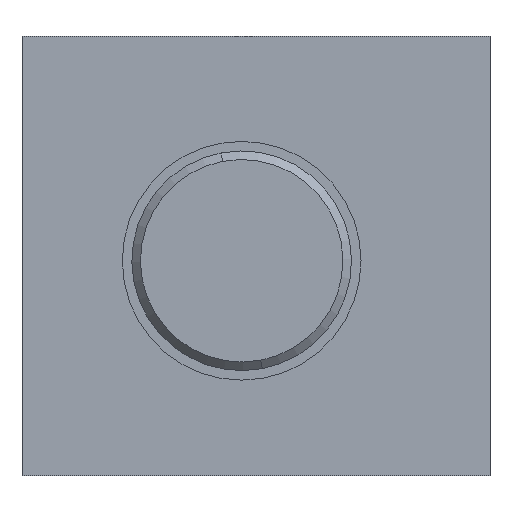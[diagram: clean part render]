
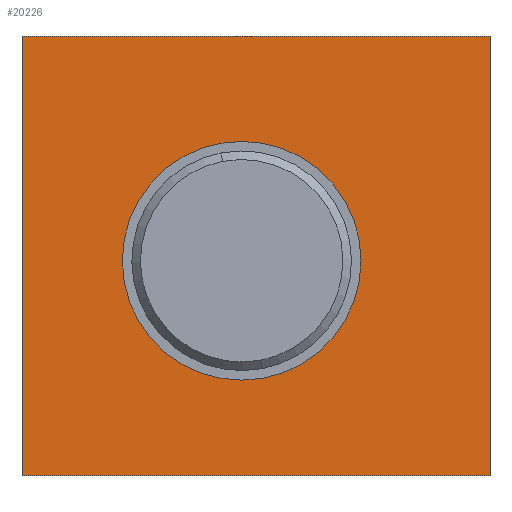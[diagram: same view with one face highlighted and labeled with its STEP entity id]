
A CAD part, left-side view. The second image highlights one B-rep face of the part: STEP entity #20226.
In plain terms, the highlighted planar face has unit normal (-1, 0, 0).
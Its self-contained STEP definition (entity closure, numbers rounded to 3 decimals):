
#225 = DIRECTION ( 'NONE',  ( 0., 0., -1. ) ) ;
#261 = CARTESIAN_POINT ( 'NONE',  ( 0., -24.5, 23. ) ) ;
#462 = CIRCLE ( 'NONE', #16211, 12.5 ) ;
#641 = DIRECTION ( 'NONE',  ( 0., 1., 0. ) ) ;
#878 = EDGE_CURVE ( 'NONE', #7398, #6749, #17903, .T. ) ;
#1923 = ORIENTED_EDGE ( 'NONE', *, *, #25789, .F. ) ;
#1940 = VERTEX_POINT ( 'NONE', #10190 ) ;
#2022 = DIRECTION ( 'NONE',  ( 0., -1., 0. ) ) ;
#3833 = CIRCLE ( 'NONE', #16423, 12.5 ) ;
#4175 = ORIENTED_EDGE ( 'NONE', *, *, #11062, .F. ) ;
#4896 = CARTESIAN_POINT ( 'NONE',  ( 0., 24.5, 23. ) ) ;
#5407 = CARTESIAN_POINT ( 'NONE',  ( 0., 24.5, 23. ) ) ;
#6738 = CARTESIAN_POINT ( 'NONE',  ( 0., 0., 0. ) ) ;
#6749 = VERTEX_POINT ( 'NONE', #10109 ) ;
#7170 = VERTEX_POINT ( 'NONE', #4896 ) ;
#7398 = VERTEX_POINT ( 'NONE', #14882 ) ;
#8953 = DIRECTION ( 'NONE',  ( 0., 0., 1. ) ) ;
#10038 = LINE ( 'NONE', #12430, #10057 ) ;
#10057 = VECTOR ( 'NONE', #28388, 1000. ) ;
#10109 = CARTESIAN_POINT ( 'NONE',  ( 0., -24.5, -23. ) ) ;
#10190 = CARTESIAN_POINT ( 'NONE',  ( 0., -11., -0.5 ) ) ;
#10723 = LINE ( 'NONE', #5407, #10745 ) ;
#10745 = VECTOR ( 'NONE', #19070, 1000. ) ;
#11062 = EDGE_CURVE ( 'NONE', #22346, #1940, #462, .T. ) ;
#11317 = EDGE_LOOP ( 'NONE', ( #23516, #17413, #1923, #22493 ) ) ;
#11529 = CARTESIAN_POINT ( 'NONE',  ( 0., -24.5, -23. ) ) ;
#11872 = EDGE_LOOP ( 'NONE', ( #26999, #4175 ) ) ;
#12430 = CARTESIAN_POINT ( 'NONE',  ( 0., -24.5, 23. ) ) ;
#12853 = VECTOR ( 'NONE', #641, 1000. ) ;
#12882 = LINE ( 'NONE', #11529, #12853 ) ;
#13224 = VERTEX_POINT ( 'NONE', #21302 ) ;
#14882 = CARTESIAN_POINT ( 'NONE',  ( 0., -24.5, 23. ) ) ;
#15435 = DIRECTION ( 'NONE',  ( -1., 0., 0. ) ) ;
#15672 = PLANE ( 'NONE',  #26781 ) ;
#16174 = CARTESIAN_POINT ( 'NONE',  ( 0., 14., -0.5 ) ) ;
#16211 = AXIS2_PLACEMENT_3D ( 'NONE', #19669, #19535, #19502 ) ;
#16423 = AXIS2_PLACEMENT_3D ( 'NONE', #29017, #15435, #2022 ) ;
#17413 = ORIENTED_EDGE ( 'NONE', *, *, #878, .F. ) ;
#17903 = LINE ( 'NONE', #261, #19974 ) ;
#19070 = DIRECTION ( 'NONE',  ( 0., 0., 1. ) ) ;
#19502 = DIRECTION ( 'NONE',  ( 0., -1., 0. ) ) ;
#19535 = DIRECTION ( 'NONE',  ( -1., 0., 0. ) ) ;
#19669 = CARTESIAN_POINT ( 'NONE',  ( 0., 1.5, -0.5 ) ) ;
#19974 = VECTOR ( 'NONE', #225, 1000. ) ;
#20226 = ADVANCED_FACE ( 'NONE', ( #21439, #21407 ), #15672, .T. ) ;
#21302 = CARTESIAN_POINT ( 'NONE',  ( 0., 24.5, -23. ) ) ;
#21407 = FACE_BOUND ( 'NONE', #11872, .T. ) ;
#21439 = FACE_OUTER_BOUND ( 'NONE', #11317, .T. ) ;
#22346 = VERTEX_POINT ( 'NONE', #16174 ) ;
#22493 = ORIENTED_EDGE ( 'NONE', *, *, #25975, .F. ) ;
#22699 = DIRECTION ( 'NONE',  ( -1., 0., 0. ) ) ;
#23516 = ORIENTED_EDGE ( 'NONE', *, *, #25561, .F. ) ;
#25561 = EDGE_CURVE ( 'NONE', #6749, #13224, #12882, .T. ) ;
#25789 = EDGE_CURVE ( 'NONE', #7170, #7398, #10038, .T. ) ;
#25975 = EDGE_CURVE ( 'NONE', #13224, #7170, #10723, .T. ) ;
#26151 = EDGE_CURVE ( 'NONE', #1940, #22346, #3833, .T. ) ;
#26781 = AXIS2_PLACEMENT_3D ( 'NONE', #6738, #22699, #8953 ) ;
#26999 = ORIENTED_EDGE ( 'NONE', *, *, #26151, .F. ) ;
#28388 = DIRECTION ( 'NONE',  ( 0., -1., 0. ) ) ;
#29017 = CARTESIAN_POINT ( 'NONE',  ( 0., 1.5, -0.5 ) ) ;
